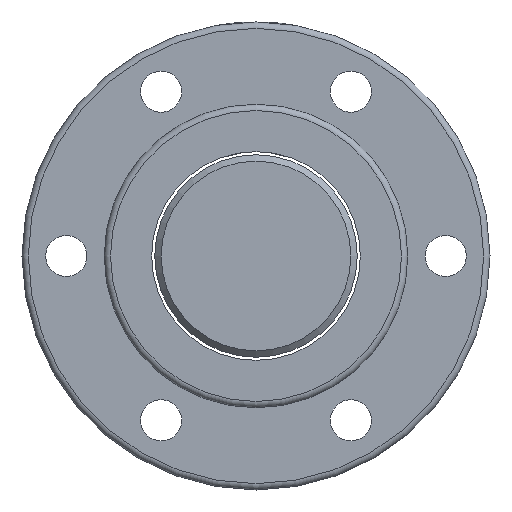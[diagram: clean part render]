
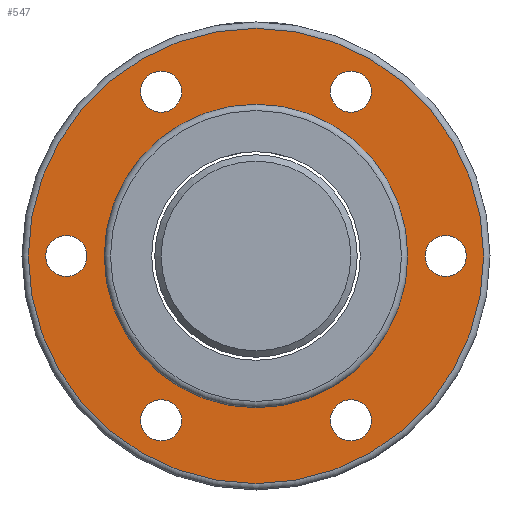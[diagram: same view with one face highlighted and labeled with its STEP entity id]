
A CAD part, left-side view. The second image highlights one B-rep face of the part: STEP entity #547.
In plain terms, the highlighted planar face has unit normal (-1, 0, 0).
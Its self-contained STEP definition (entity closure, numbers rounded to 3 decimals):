
#67=PLANE('',#647);
#140=ORIENTED_EDGE('',*,*,#224,.T.);
#141=ORIENTED_EDGE('',*,*,#223,.F.);
#142=ORIENTED_EDGE('',*,*,#222,.T.);
#143=ORIENTED_EDGE('',*,*,#219,.T.);
#144=ORIENTED_EDGE('',*,*,#216,.T.);
#145=ORIENTED_EDGE('',*,*,#213,.T.);
#146=ORIENTED_EDGE('',*,*,#210,.T.);
#147=ORIENTED_EDGE('',*,*,#207,.T.);
#207=EDGE_CURVE('',#260,#260,#303,.T.);
#210=EDGE_CURVE('',#263,#263,#306,.T.);
#213=EDGE_CURVE('',#266,#266,#309,.T.);
#216=EDGE_CURVE('',#269,#269,#312,.T.);
#219=EDGE_CURVE('',#272,#272,#315,.T.);
#222=EDGE_CURVE('',#275,#275,#318,.T.);
#223=EDGE_CURVE('',#276,#276,#319,.T.);
#224=EDGE_CURVE('',#277,#277,#320,.T.);
#260=VERTEX_POINT('',#921);
#263=VERTEX_POINT('',#930);
#266=VERTEX_POINT('',#939);
#269=VERTEX_POINT('',#948);
#272=VERTEX_POINT('',#957);
#275=VERTEX_POINT('',#966);
#276=VERTEX_POINT('',#970);
#277=VERTEX_POINT('',#973);
#303=CIRCLE('',#613,3.25);
#306=CIRCLE('',#619,3.25);
#309=CIRCLE('',#625,3.25);
#312=CIRCLE('',#631,3.25);
#315=CIRCLE('',#637,3.25);
#318=CIRCLE('',#643,3.25);
#319=CIRCLE('',#646,36.);
#320=CIRCLE('',#648,24.);
#385=EDGE_LOOP('',(#140));
#386=EDGE_LOOP('',(#141));
#387=EDGE_LOOP('',(#142));
#388=EDGE_LOOP('',(#143));
#389=EDGE_LOOP('',(#144));
#390=EDGE_LOOP('',(#145));
#391=EDGE_LOOP('',(#146));
#392=EDGE_LOOP('',(#147));
#472=FACE_BOUND('',#385,.T.);
#473=FACE_BOUND('',#386,.T.);
#474=FACE_BOUND('',#387,.T.);
#475=FACE_BOUND('',#388,.T.);
#476=FACE_BOUND('',#389,.T.);
#477=FACE_BOUND('',#390,.T.);
#478=FACE_BOUND('',#391,.T.);
#479=FACE_BOUND('',#392,.T.);
#547=ADVANCED_FACE('',(#472,#473,#474,#475,#476,#477,#478,#479),#67,.F.);
#613=AXIS2_PLACEMENT_3D('',#920,#722,#723);
#619=AXIS2_PLACEMENT_3D('',#929,#734,#735);
#625=AXIS2_PLACEMENT_3D('',#938,#746,#747);
#631=AXIS2_PLACEMENT_3D('',#947,#758,#759);
#637=AXIS2_PLACEMENT_3D('',#956,#770,#771);
#643=AXIS2_PLACEMENT_3D('',#965,#782,#783);
#646=AXIS2_PLACEMENT_3D('',#969,#788,#789);
#647=AXIS2_PLACEMENT_3D('',#971,#790,#791);
#648=AXIS2_PLACEMENT_3D('',#972,#792,#793);
#722=DIRECTION('',(1.,0.,0.));
#723=DIRECTION('',(0.,0.,-1.));
#734=DIRECTION('',(1.,0.,0.));
#735=DIRECTION('',(0.,0.,-1.));
#746=DIRECTION('',(1.,0.,0.));
#747=DIRECTION('',(0.,0.,-1.));
#758=DIRECTION('',(1.,0.,0.));
#759=DIRECTION('',(0.,0.,-1.));
#770=DIRECTION('',(1.,0.,0.));
#771=DIRECTION('',(0.,0.,-1.));
#782=DIRECTION('',(1.,0.,0.));
#783=DIRECTION('',(0.,0.,-1.));
#788=DIRECTION('',(1.,0.,0.));
#789=DIRECTION('',(0.,0.,-1.));
#790=DIRECTION('',(1.,0.,0.));
#791=DIRECTION('',(0.,0.,-1.));
#792=DIRECTION('',(1.,0.,0.));
#793=DIRECTION('',(0.,0.,-1.));
#920=CARTESIAN_POINT('',(-27.,15.,-25.981));
#921=CARTESIAN_POINT('',(-27.,15.,-29.231));
#929=CARTESIAN_POINT('',(-27.,-15.,-25.981));
#930=CARTESIAN_POINT('',(-27.,-15.,-29.231));
#938=CARTESIAN_POINT('',(-27.,-30.,0.));
#939=CARTESIAN_POINT('',(-27.,-30.,-3.25));
#947=CARTESIAN_POINT('',(-27.,-15.,25.981));
#948=CARTESIAN_POINT('',(-27.,-15.,22.731));
#956=CARTESIAN_POINT('',(-27.,15.,25.981));
#957=CARTESIAN_POINT('',(-27.,15.,22.731));
#965=CARTESIAN_POINT('',(-27.,30.,0.));
#966=CARTESIAN_POINT('',(-27.,30.,-3.25));
#969=CARTESIAN_POINT('',(-27.,0.,0.));
#970=CARTESIAN_POINT('',(-27.,0.,-36.));
#971=CARTESIAN_POINT('',(-27.,30.5,0.));
#972=CARTESIAN_POINT('',(-27.,0.,0.));
#973=CARTESIAN_POINT('',(-27.,0.,-24.));
